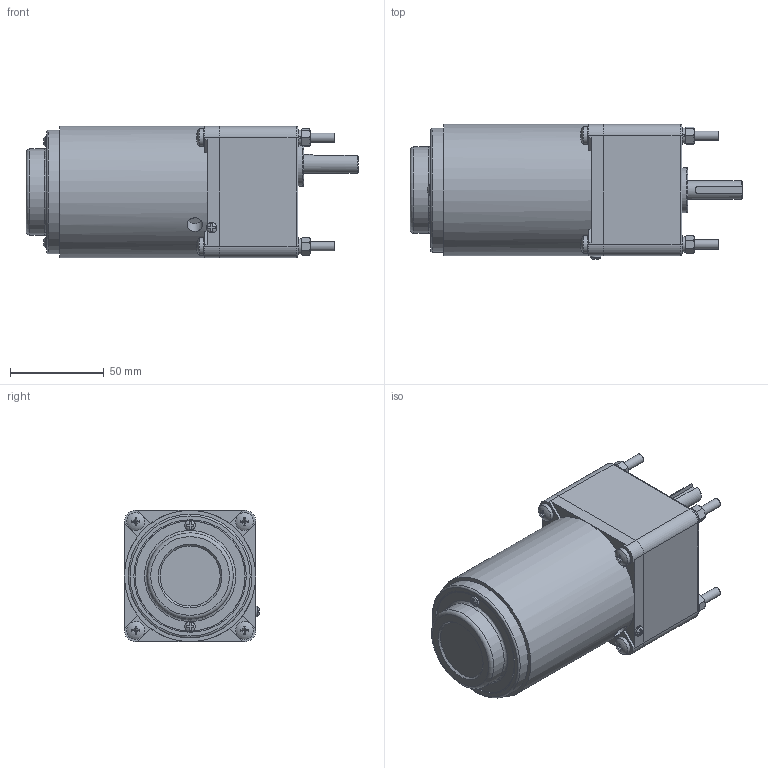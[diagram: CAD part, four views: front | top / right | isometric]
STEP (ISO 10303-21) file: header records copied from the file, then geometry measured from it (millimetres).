
FILE_DESCRIPTION(/* description */ (''),/* implementation_level */ '2;1');
FILE_NAME(/* name */ '70高箱T-25调速.stp',/* time_stamp */ '2022-10-31T09:44:17+08:00',/* author */ (''),/* organization */ (''),/* preprocessor_version */ 'ST-DEVELOPER v16.7',/* originating_system */ 'SIEMENS PLM Software NX 1899',/* authorisation */ '');
FILE_SCHEMA (('AP203_CONFIGURATION_CONTROLLED_3D_DESIGN_OF_MECHANICAL_PARTS_AND_ASSEMBLIES_MIM_LF { 1 0 10303 403 2 1 2}'));
Length unit declared in the file: millimetre
Products named in the file (1): yf186188FEB6lccu
Bounding box: 177 x 72.04 x 70 mm (x, y, z)
Volume: 581325.1 mm3; surface area: 68835.8 mm2
Topology: 22 solids, 24 shells, 431 faces, 1009 edges, 645 vertices
Faces by surface type: plane 189, bspline 80, cylinder 78, cone 64, torus 13, sphere 7
Full cylindrical faces by diameter (mm): 2.7 x1, 4.351 x4, 4.826 x4, 5 x4, 5.3 x8, 5.6 x3, 6 x9, 8.3 x1, 9 x8, 9.5 x4, 10 x1, 24 x1, 37 x1, 46 x1, 58.6 x1, 60 x1, 63 x1, 66 x1, 66.6 x2, 70 x1
Entity records: 13397 total; most frequent: CARTESIAN_POINT 3465, ORIENTED_EDGE 1792, DIRECTION 1595, EDGE_CURVE 896, AXIS2_PLACEMENT_3D 678, VERTEX_POINT 620, EDGE_LOOP 577, ADVANCED_FACE 431
